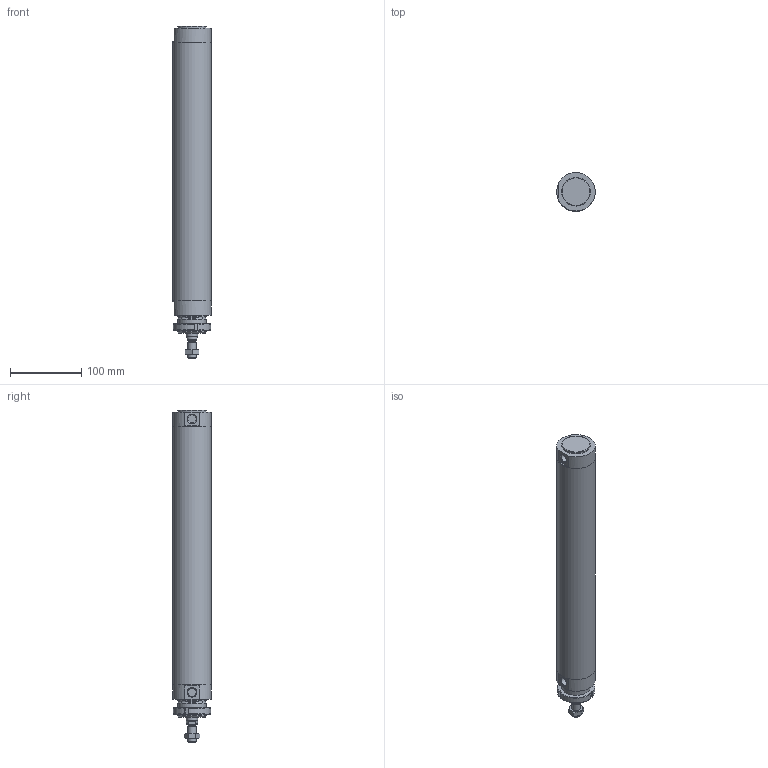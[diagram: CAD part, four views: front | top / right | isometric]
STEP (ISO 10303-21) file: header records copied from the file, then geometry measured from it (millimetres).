
FILE_DESCRIPTION(/* description */ (''),/* implementation_level */ '2;1');
FILE_NAME(/* name */ 'I:\Area Tecnica\Documenti\A-Manieri\_Inventor\12X\12X#D_###_####_#_#\12XAD_050_0320_#_#.stp',/* time_stamp */ '2015-04-29T16:44:32+02:00',/* author */ ('maniean1'),/* organization */ ('Pneumax S.p.A.'),/* preprocessor_version */ 'ST-DEVELOPER v15.2',/* originating_system */ 'Autodesk Inventor 2014',/* authorisation */ '');
FILE_SCHEMA (('AUTOMOTIVE_DESIGN { 1 0 10303 214 3 1 1 }'));
Length unit declared in the file: millimetre
Products named in the file (7): C1250_619-0320; 12X50_604; S12X50_0320; 12X_50_11; 12X50_611; G12X_050_05; 12XAD_050_0320_#_#
Bounding box: 54 x 54 x 465 mm (x, y, z)
Volume: 404361.4 mm3; surface area: 176168.9 mm2
Topology: 6 solids, 6 shells, 81 faces, 175 edges, 112 vertices
Faces by surface type: plane 41, cylinder 21, cone 19
Full cylindrical faces by diameter (mm): 10.2 x1, 11.4 x2, 12 x2, 14 x1, 15.6 x1, 16 x1, 38.2 x1, 40 x4, 50 x2, 54 x3
Entity records: 2155 total; most frequent: CARTESIAN_POINT 400, DIRECTION 364, ORIENTED_EDGE 284, AXIS2_PLACEMENT_3D 156, EDGE_CURVE 142, EDGE_LOOP 124, VERTEX_POINT 108, ADVANCED_FACE 81
